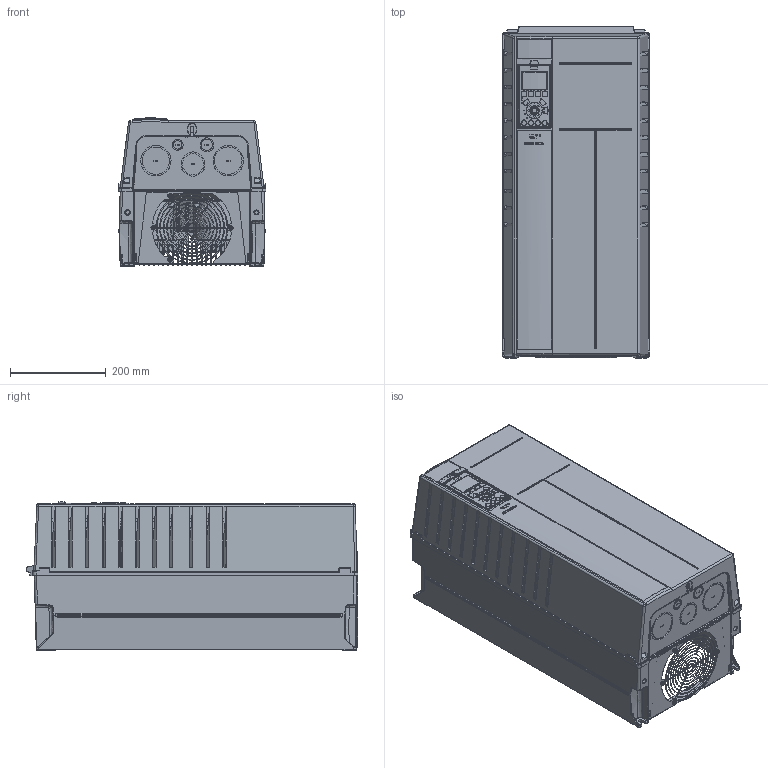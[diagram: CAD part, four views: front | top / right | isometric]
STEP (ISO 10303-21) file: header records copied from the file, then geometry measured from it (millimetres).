
FILE_DESCRIPTION((''),'2;1');
FILE_NAME('DANFOSS-FC100-C1-IP21','2011-10-13T',('cstephenkumar'),('Be-Atch INC. 1993'),'PRO/ENGINEER BY PARAMETRIC TECHNOLOGY CORPORATION, 2009360','PRO/ENGINEER BY PARAMETRIC TECHNOLOGY CORPORATION, 2009360','');
FILE_SCHEMA(('AUTOMOTIVE_DESIGN { 1 0 10303 214 1 1 1 1 }'));
Length unit declared in the file: millimetre
Products named in the file (1): DANFOSS-FC100-C1-IP21
Bounding box: 308.54 x 692.9 x 309.3 mm (x, y, z)
Volume: 42128603 mm3; surface area: 3357262.1 mm2
Topology: 1 solids, 22 shells, 5072 faces, 13235 edges, 8154 vertices
Faces by surface type: plane 1799, cylinder 1515, bspline 1096, cone 353, torus 275, sphere 28, extrusion 6
Entity records: 206695 total; most frequent: CARTESIAN_POINT 90434, ORIENTED_EDGE 26334, DIRECTION 20760, EDGE_CURVE 13167, VERTEX_POINT 8154, AXIS2_PLACEMENT_3D 7187, VECTOR 6386, LINE 6380
